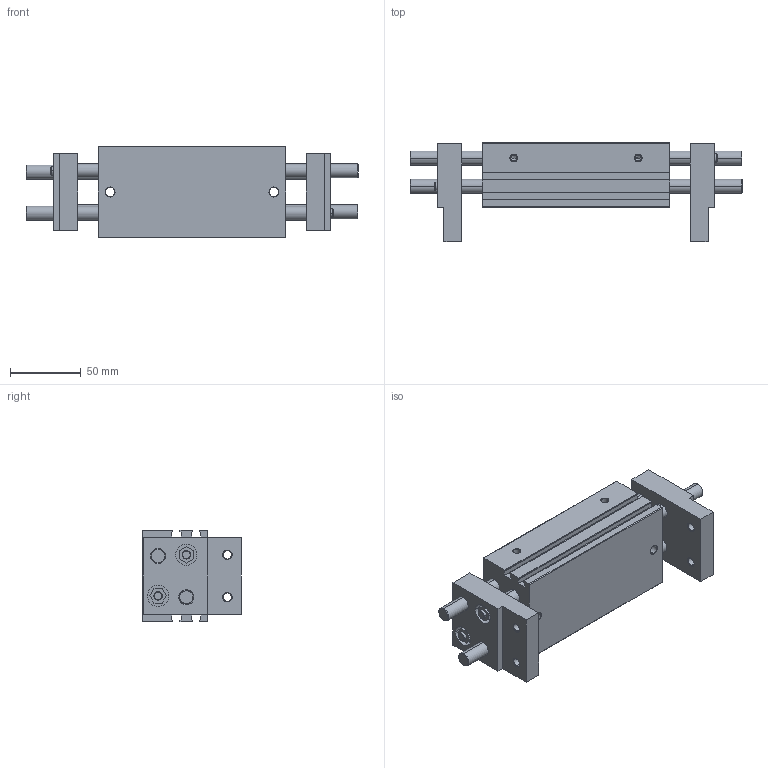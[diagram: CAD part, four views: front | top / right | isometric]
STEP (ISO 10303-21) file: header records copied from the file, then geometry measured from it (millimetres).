
FILE_DESCRIPTION (( 'STEP AP203' ), '1' );
FILE_NAME ('CHL2-20D2.STEP', '2017-06-06T20:18:04', ( '' ), ( '' ), 'SwSTEP 2.0', 'SolidWorks 2016', '' );
FILE_SCHEMA (( 'CONFIG_CONTROL_DESIGN' ));
Length unit declared in the file: millimetre
Products named in the file (3): CHL2-20D2 CORPO; CHL2-20D2 DEDO; CHL2-20D2
Assembly tree (3 placements, depth 2):
  CHL2-20D2
    CHL2-20D2 CORPO
    CHL2-20D2 DEDO  x2
Bounding box: 235 x 70 x 65 mm (x, y, z)
Volume: 486598.2 mm3; surface area: 117471.9 mm2
Topology: 3 solids, 3 shells, 347 faces, 825 edges, 519 vertices
Faces by surface type: cylinder 127, plane 125, cone 95
Entity records: 7899 total; most frequent: DIRECTION 1418, CARTESIAN_POINT 1271, ORIENTED_EDGE 1222, EDGE_CURVE 611, AXIS2_PLACEMENT_3D 538, VERTEX_POINT 391, VECTOR 342, LINE 342
